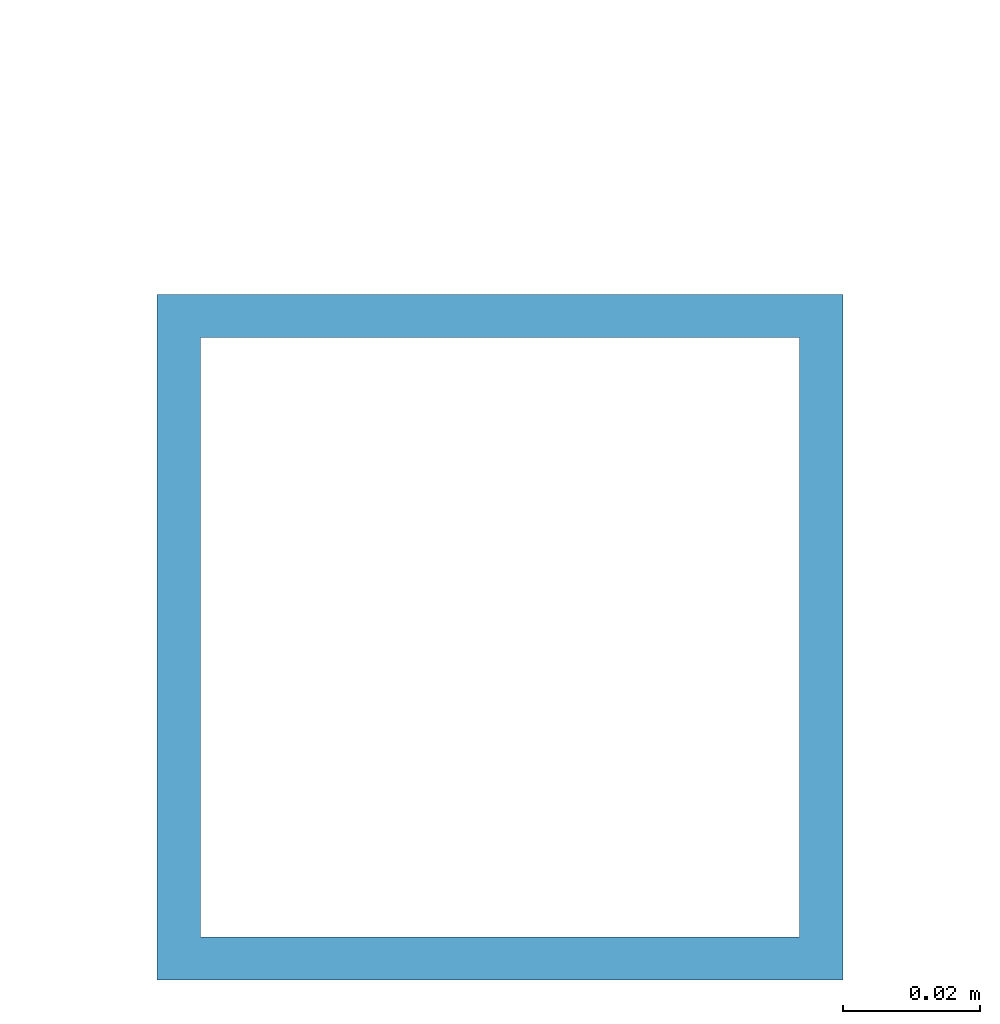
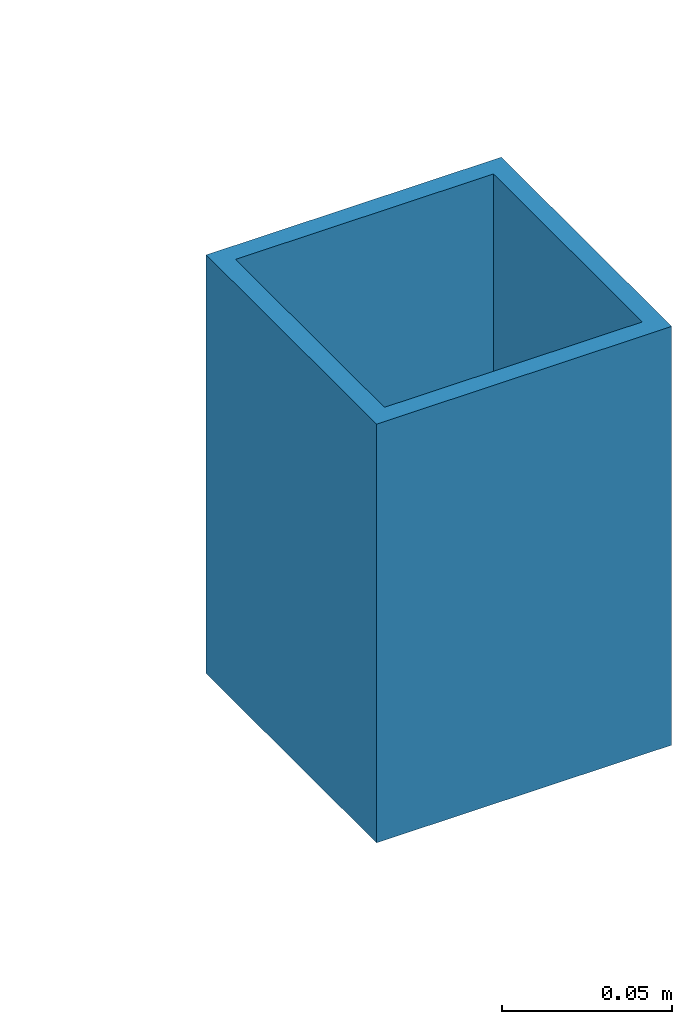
# One storey, part 2 of 3: 1 column.
"""IFC2X3 building model written with IfcOpenShell, lengths in millimetres."""

import ifcopenshell
import ifcopenshell.guid

model = None  # the IFC model being written
_history = None  # IfcOwnerHistory: only IFC2X3 demands one
_inside = {}  # id of a spatial element -> (the spatial element, [elements in it])
_under = {}  # id of a project, library or spatial element -> (it, [spatial elements below it])
_declared = {}  # id of a project -> (the project, [libraries it declares])
_typed = {}  # id of a type object -> (the type object, [elements of that type])
_made_of = {}  # id of a material, layer set ... -> (it, [elements and type objects made of it])


def new_model(schema):
    """Start an empty IFC model of exactly this schema.

    Asked for "IFC4X3", IfcOpenShell would pick the latest addendum, in which some entities
    have other attributes; the version numbers below select the first issue.
    IFC2X3 requires an IfcOwnerHistory on every rooted entity: one is made here for all.
    """
    global model, _history
    if schema == "IFC4X3":
        model = ifcopenshell.file(schema_version=(4, 3, 0, 0))
    else:
        model = ifcopenshell.file(schema=schema)
    _inside.clear()
    _under.clear()
    _declared.clear()
    _typed.clear()
    _made_of.clear()
    _history = None
    if model.schema == "IFC2X3":
        org = make("IfcOrganization", Name="unknown")
        user = make(
            "IfcPersonAndOrganization",
            ThePerson=make("IfcPerson", FamilyName="unknown"),
            TheOrganization=org,
        )
        app = make(
            "IfcApplication",
            ApplicationDeveloper=org,
            Version="unknown",
            ApplicationFullName="unknown",
            ApplicationIdentifier="unknown",
        )
        _history = make(
            "IfcOwnerHistory",
            OwningUser=user,
            OwningApplication=app,
            ChangeAction="ADDED",
            CreationDate=0,
        )
    return model


def make(cls, **values):
    """One entity of the class cls with the attributes given. An attribute that is None is left unset."""
    return model.create_entity(
        cls, **{name: value for name, value in values.items() if value is not None}
    )


def entity(cls, *values):
    """Any entity or typed value of the class cls, its attributes in the order of the schema. None: left unset."""
    e = model.create_entity(cls)
    for i, value in enumerate(values):
        if value is not None:
            e[i] = value
    return e


def rooted(cls, **values):
    """An entity with a GlobalId (a new one), such as an element, a storey or a relation."""
    return make(cls, GlobalId=ifcopenshell.guid.new(), OwnerHistory=_history, **values)


def si_unit(unit_type, name, prefix=None):
    """IfcSIUnit, for example si_unit("LENGTHUNIT", "METRE", prefix="MILLI")."""
    return make("IfcSIUnit", UnitType=unit_type, Prefix=prefix, Name=name)


def converted_unit(unit_type, name, factor, base, dimensions=None, offset=None):
    """IfcConversionBasedUnit, such as the inch: factor (a typed value) times the base unit."""
    return make(
        "IfcConversionBasedUnit"
        if offset is None
        else "IfcConversionBasedUnitWithOffset",
        ConversionOffset=offset,
        Dimensions=None
        if dimensions is None
        else entity("IfcDimensionalExponents", *dimensions),
        UnitType=unit_type,
        Name=name,
        ConversionFactor=make(
            "IfcMeasureWithUnit", ValueComponent=factor, UnitComponent=base
        ),
    )


def derived_unit(unit_type, elements):
    """IfcDerivedUnit: a product of units, each with its exponent."""
    return make(
        "IfcDerivedUnit",
        Elements=[
            make("IfcDerivedUnitElement", Unit=unit, Exponent=power)
            for unit, power in elements
        ],
        UnitType=unit_type,
    )


def assignment(units):
    """IfcUnitAssignment: the units of a project."""
    return None if units is None else make("IfcUnitAssignment", Units=units)


def point(xyz):
    """IfcCartesianPoint."""
    return None if xyz is None else make("IfcCartesianPoint", Coordinates=xyz)


def direction(xyz):
    """IfcDirection."""
    return None if xyz is None else make("IfcDirection", DirectionRatios=xyz)


def frame(location, z_axis=None, x_axis=None):
    """IfcAxis2Placement3D, a coordinate frame: its origin and axes. An axis left out is left unset."""
    return make(
        "IfcAxis2Placement3D",
        Location=point(location),
        Axis=direction(z_axis),
        RefDirection=direction(x_axis),
    )


def origin_with_axes():
    """The frame at (0, 0, 0) with the z axis (0, 0, 1) and the x axis (1, 0, 0) written out."""
    return frame((0.0, 0.0, 0.0), z_axis=(0.0, 0.0, 1.0), x_axis=(1.0, 0.0, 0.0))


def place(relative_to, where):
    """IfcLocalPlacement: puts the frame where relative to a parent placement (None: the world)."""
    return make(
        "IfcLocalPlacement", PlacementRelTo=relative_to, RelativePlacement=where
    )


def context(
    kind, dimensions, precision=None, world=None, true_north=None, identifier=None
):
    """IfcGeometricRepresentationContext, for example the 3D "Model" context."""
    return make(
        "IfcGeometricRepresentationContext",
        ContextIdentifier=identifier,
        ContextType=kind,
        CoordinateSpaceDimension=dimensions,
        Precision=precision,
        WorldCoordinateSystem=world,
        TrueNorth=true_north,
    )


def subcontext(parent, identifier, kind, view, scale=None):
    """IfcGeometricRepresentationSubContext, for example "Body" below "Model"."""
    return make(
        "IfcGeometricRepresentationSubContext",
        ContextIdentifier=identifier,
        ContextType=kind,
        ParentContext=parent,
        TargetScale=scale,
        TargetView=view,
    )


def project(units=None, contexts=None):
    """IfcProject with its units and contexts."""
    return rooted(
        "IfcProject",
        Name="project",
        RepresentationContexts=contexts,
        UnitsInContext=assignment(units),
    )


def spatial(cls, under=None, at=None, **own):
    """A site, building, storey or space (cls), placed at a placement, below another one or the project."""
    s = rooted(cls, ObjectPlacement=at, **own)
    if under is not None:
        _under.setdefault(under.id(), (under, []))[1].append(s)
    return s


def faces_of(points, faces, orient=None, outer=None):
    """IfcFace entities. A face is a list of loops; a loop is a list of indices into points, from 0.

    orient and outer hold one flag for each loop. By default every Orientation is true, the
    first loop of a face is its IfcFaceOuterBound and the others are IfcFaceBound.
    """
    made = []
    for i, loops in enumerate(faces):
        bounds = []
        for j, loop in enumerate(loops):
            is_outer = j == 0 if outer is None else outer[i][j]
            bounds.append(
                make(
                    "IfcFaceOuterBound" if is_outer else "IfcFaceBound",
                    Bound=make("IfcPolyLoop", Polygon=[points[k] for k in loop]),
                    Orientation=True if orient is None else orient[i][j],
                )
            )
        made.append(make("IfcFace", Bounds=bounds))
    return made


def faceted_brep(points, faces, orient=None, outer=None, voids=None):
    """IfcFacetedBrep: a solid bounded by flat faces; with voids (closed shells), ...WithVoids."""
    shared = [point(p) for p in points]
    hull = make("IfcClosedShell", CfsFaces=faces_of(shared, faces, orient, outer))
    if voids is None:
        return make("IfcFacetedBrep", Outer=hull)
    return make(
        "IfcFacetedBrepWithVoids",
        Outer=hull,
        Voids=[
            make(cls, CfsFaces=faces_of(shared, fs, o, b)) for cls, fs, o, b in voids
        ],
    )


def shape(context_of_items, identifier, shape_type, items):
    """IfcShapeRepresentation: the items that make up one representation, for example the "Body"."""
    return make(
        "IfcShapeRepresentation",
        ContextOfItems=context_of_items,
        RepresentationIdentifier=identifier,
        RepresentationType=shape_type,
        Items=items,
    )


def material(Name=None, Category=None):
    """IfcMaterial."""
    return make("IfcMaterial", Name=Name, Category=Category)


def made_of(thing, what):
    """Note that an element or type object is made of a material, layer set ...; save() writes the relation."""
    if what is not None:
        _made_of.setdefault(what.id(), (what, []))[1].append(thing)
    return thing


def type_object(cls, material=None, **own):
    """A type object (cls), such as IfcWallType, which elements share."""
    return made_of(rooted(cls, **own), material)


def element(
    cls,
    number,
    at=None,
    inside=None,
    cuts=None,
    type_object=None,
    material=None,
    context=None,
    identifier="Body",
    shape_type=None,
    held_by="IfcProductDefinitionShape",
    body=None,
    shapes=None,
    **own,
):
    """One element of the class cls, such as IfcWall. Its Tag is "e" and its number.

    at: its placement. inside: the storey or other place that contains it. cuts: it is an
    opening in that element (IfcRelVoidsElement). A single representation is given by context,
    identifier, shape_type and body (its items); several are given by shapes. held_by: the class
    of the entity that holds the representations. save() writes the other relations.
    """
    e = rooted(cls, Tag="e%d" % number, ObjectPlacement=at, **own)
    if body is not None:
        shapes = [shape(context, identifier, shape_type, body)]
    if shapes is not None:
        e.Representation = make(held_by, Representations=shapes)
    if inside is not None:
        _inside.setdefault(inside.id(), (inside, []))[1].append(e)
    if cuts is not None:
        rooted(
            "IfcRelVoidsElement", RelatingBuildingElement=cuts, RelatedOpeningElement=e
        )
    if type_object is not None:
        _typed.setdefault(type_object.id(), (type_object, []))[1].append(e)
    return made_of(e, material)


def aggregate(whole, parts):
    """IfcRelAggregates: a whole, such as a stair, and the parts it consists of."""
    return rooted("IfcRelAggregates", RelatingObject=whole, RelatedObjects=parts)


def save(model, path):
    """Write the relations noted so far, then the file.

    IfcRelAggregates (storeys below a building ...), IfcRelContainedInSpatialStructure (elements
    in a storey), IfcRelDefinesByType, IfcRelAssociatesMaterial and IfcRelDeclares: one each for
    every whole, place, type object, material and project.
    """
    for whole, parts in _under.values():
        aggregate(whole, parts)
    for where, things in _inside.values():
        rooted(
            "IfcRelContainedInSpatialStructure",
            RelatedElements=things,
            RelatingStructure=where,
        )
    for kind, things in _typed.values():
        rooted("IfcRelDefinesByType", RelatedObjects=things, RelatingType=kind)
    for what, things in _made_of.values():
        rooted("IfcRelAssociatesMaterial", RelatedObjects=things, RelatingMaterial=what)
    for by, libraries in _declared.values():
        rooted("IfcRelDeclares", RelatingContext=by, RelatedDefinitions=libraries)
    model.write(path)


model = new_model("IFC2X3")

# Units and contexts
model_context = context("Model", 3, precision=0.01, world=frame((0.0, 4.29681676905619e-09, 0.0)), true_north=direction((4.01073788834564e-13, 1.0)))
plan_context = context("Plan", 3, precision=0.01, world=frame((0.0, 4.29681676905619e-09, 0.0)), true_north=direction((4.01073788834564e-13, 1.0)))
body_context = subcontext(model_context, "Body", "Model", "MODEL_VIEW")
ifc_project = project(units=[converted_unit("PLANEANGLEUNIT", "DEGREE", entity("IfcPositiveLengthMeasure", 0.0174532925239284), si_unit("PLANEANGLEUNIT", "RADIAN"), dimensions=[0, 0, 0, 0, 0, 0, 0]), si_unit("AREAUNIT", "SQUARE_METRE"), si_unit("LENGTHUNIT", "METRE", prefix="MILLI"), si_unit("MASSUNIT", "GRAM", prefix="KILO"), si_unit("POWERUNIT", "WATT"), si_unit("PRESSUREUNIT", "PASCAL", prefix="KILO"), si_unit("FORCEUNIT", "NEWTON", prefix="KILO"), si_unit("ELECTRICVOLTAGEUNIT", "VOLT"), si_unit("ELECTRICCURRENTUNIT", "AMPERE"), si_unit("THERMODYNAMICTEMPERATUREUNIT", "DEGREE_CELSIUS"), si_unit("TIMEUNIT", "SECOND"), si_unit("VOLUMEUNIT", "CUBIC_METRE"), derived_unit("LINEARVELOCITYUNIT", [(si_unit("LENGTHUNIT", "METRE"), 1), (si_unit("TIMEUNIT", "SECOND"), -1)]), derived_unit("VOLUMETRICFLOWRATEUNIT", [(si_unit("VOLUMEUNIT", "CUBIC_METRE"), 1), (si_unit("TIMEUNIT", "SECOND"), -1)]), derived_unit("THERMALTRANSMITTANCEUNIT", [(si_unit("POWERUNIT", "WATT"), 1), (si_unit("THERMODYNAMICTEMPERATUREUNIT", "KELVIN"), -1), (si_unit("AREAUNIT", "SQUARE_METRE"), -1)]), derived_unit("SOUNDPRESSUREUNIT", [(si_unit("PRESSUREUNIT", "PASCAL"), 1)])], contexts=[model_context, plan_context])

# Site, building, storey
site_placement = place(None, frame((0.0, -4.29681676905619e-09, 0.0), z_axis=(0.0, 0.0, 1.0), x_axis=(1.0, 0.0, 0.0)))
site = spatial("IfcSite", under=ifc_project, at=site_placement, Name="Gardermoen", CompositionType="ELEMENT")
building_placement = place(site_placement, frame((0.0, 4.29681676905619e-09, 0.0), z_axis=(0.0, 0.0, 1.0), x_axis=(1.0, 0.0, 0.0)))
building = spatial("IfcBuilding", under=site, at=building_placement, Name="TI", CompositionType="ELEMENT")
storey_placement = place(building_placement, origin_with_axes())
storey = spatial("IfcBuildingStorey", under=building, at=storey_placement, Name="D", CompositionType="ELEMENT", Elevation=0.0)

# Column
ifc_material = material(Name="STEEL/S355")
column_type = type_object("IfcColumnType", Name="RHS100*6.3", PredefinedType="NOTDEFINED")
column_placement = place(storey_placement, frame((601000.000397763, 569920.002834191, 210302.999542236), z_axis=(0.0, 1.0, 0.0), x_axis=(0.0, 0.0, 1.0)))
element("IfcColumn", 1, at=column_placement, inside=storey, type_object=column_type, material=ifc_material, Name="STÅLSØYLE", ObjectType="RHS100*6.3", context=body_context, shape_type="Brep", body=[
    faceted_brep([(0.0, 43.6999998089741, -43.6999998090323), (0.0, -43.6999998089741, -43.6999998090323), (150.000457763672, -43.6999998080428, -43.6999998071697), (150.000457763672, 43.6999998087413, -43.6999998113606), (0.0, -43.6999998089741, 43.6999998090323), (150.000457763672, -43.6999998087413, 43.6999998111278), (0.0, 43.6999998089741, 43.6999998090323), (150.000457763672, 43.6999998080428, 43.6999998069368), (0.0, 50.0, -50.0), (0.0, 50.0, 50.0), (150.000457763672, 49.9999999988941, 49.9999999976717), (150.000457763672, 49.999999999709, -50.0000000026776), (0.0, -50.0, 50.0), (150.000457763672, -49.999999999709, 50.0000000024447), (0.0, -50.0, -50.0), (150.000457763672, -49.9999999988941, -49.9999999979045)], [[[0, 1, 2, 3]], [[1, 4, 5, 2]], [[4, 6, 7, 5]], [[6, 0, 3, 7]], [[8, 9, 10, 11]], [[9, 12, 13, 10]], [[12, 14, 15, 13]], [[14, 8, 11, 15]], [[13, 15, 11, 10], [5, 7, 3, 2]], [[14, 12, 9, 8], [6, 4, 1, 0]]]),
])

save(model, "model.ifc")
